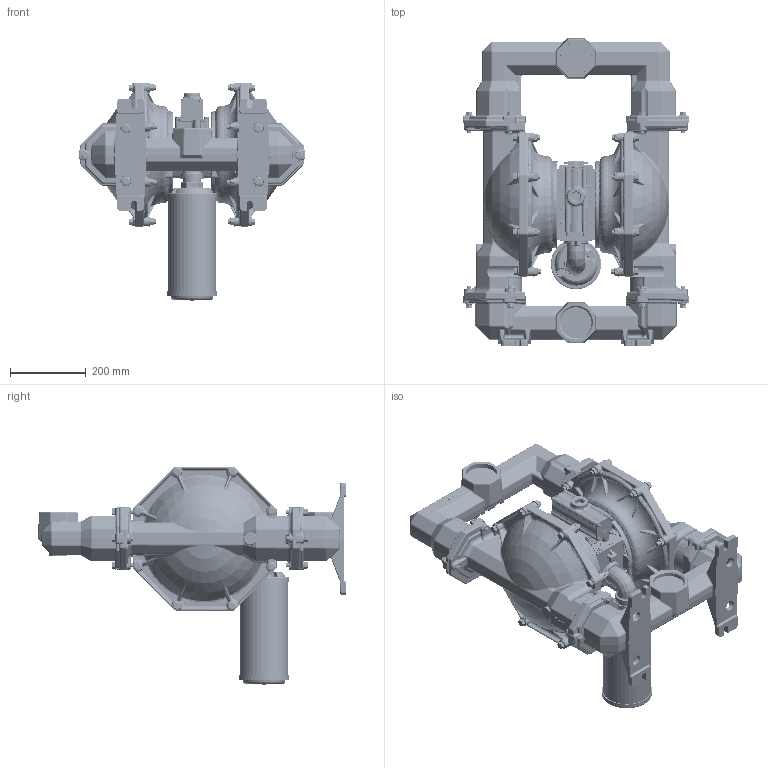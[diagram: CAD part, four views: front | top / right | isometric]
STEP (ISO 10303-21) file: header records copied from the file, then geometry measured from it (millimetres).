
FILE_DESCRIPTION(/* description */ (''),/* implementation_level */ '2;1');
FILE_NAME(/* name */ 'PD30R-AXX-XXX-C_L.stp',/* time_stamp */ '2019-04-22T09:47:39-04:00',/* author */ (''),/* organization */ (''),/* preprocessor_version */ 'ST-DEVELOPER v14',/* originating_system */ 'SIEMENS PLM Software NX 8.0',/* authorisation */ '');
FILE_SCHEMA (('CONFIG_CONTROL_DESIGN'));
Length unit declared in the file: inch
Products named in the file (1): PD30R-AXX-XXX-C_L_stp
Bounding box: 600.05 x 816.58 x 579.22 mm (x, y, z)
Volume: 47735000.9 mm3; surface area: 2042834.4 mm2
Topology: 1 solids, 1 shells, 11703 faces, 28865 edges, 17511 vertices
Faces by surface type: plane 5220, bspline 2445, cylinder 2163, torus 729, cone 715, sphere 346, extrusion 85
Entity records: 513816 total; most frequent: CARTESIAN_POINT 258176, ORIENTED_EDGE 57682, DIRECTION 46858, EDGE_CURVE 28841, VERTEX_POINT 17511, AXIS2_PLACEMENT_3D 15899, VECTOR 15060, LINE 14975
